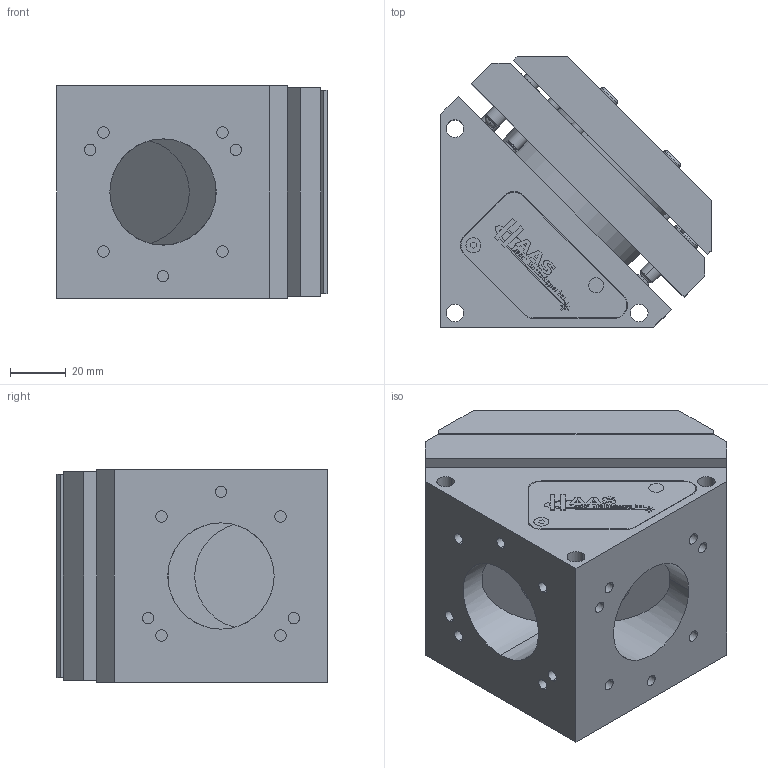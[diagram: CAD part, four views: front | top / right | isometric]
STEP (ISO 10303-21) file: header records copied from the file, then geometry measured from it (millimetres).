
FILE_DESCRIPTION (( 'STEP AP214' ), '1' );
FILE_NAME ('BBK-38-51050-MN.STEP', '2017-02-01T19:03:40', ( '' ), ( '' ), 'SwSTEP 2.0', 'SolidWorks 2017', '' );
FILE_SCHEMA (( 'AUTOMOTIVE_DESIGN' ));
Length unit declared in the file: inch
Products named in the file (1): BBK-38-51050-MN
Bounding box: 96.96 x 96.96 x 76.2 mm (x, y, z)
Volume: 475112.6 mm3; surface area: 114129.8 mm2
Topology: 25 solids, 25 shells, 960 faces, 2258 edges, 1454 vertices
Faces by surface type: plane 514, cylinder 304, cone 108, torus 14, bspline 14, sphere 6
Full cylindrical faces by diameter (mm): 1.6 x2
Entity records: 28152 total; most frequent: CARTESIAN_POINT 5264, DIRECTION 4805, ORIENTED_EDGE 4512, EDGE_CURVE 2256, AXIS2_PLACEMENT_3D 1676, VERTEX_POINT 1458, VECTOR 1453, LINE 1453
